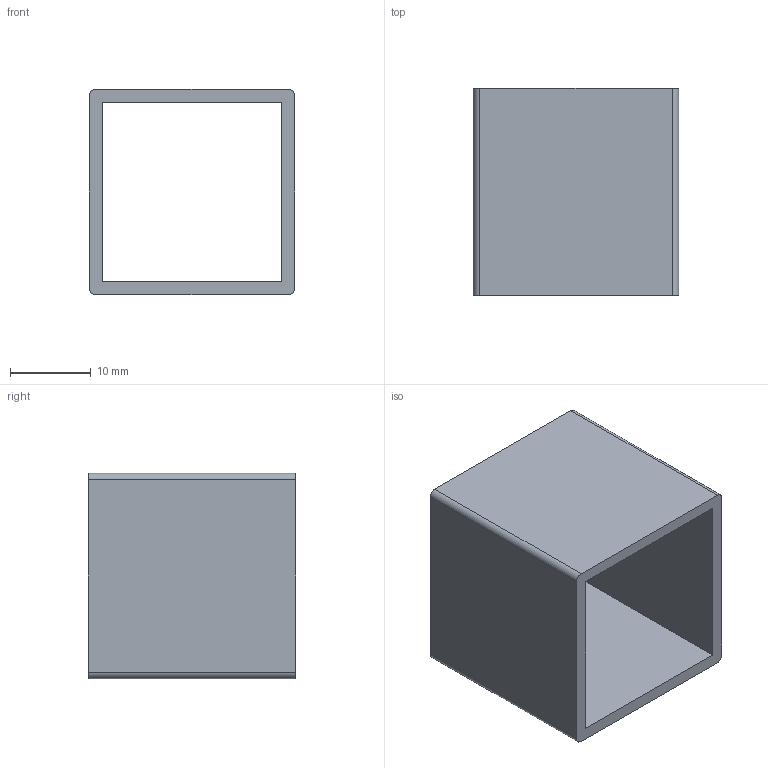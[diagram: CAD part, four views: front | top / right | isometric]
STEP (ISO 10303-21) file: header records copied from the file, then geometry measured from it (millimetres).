
FILE_DESCRIPTION(/* description */ (''),/* implementation_level */ '2;1');
FILE_NAME(/* name */ '6061-REC-100-100-062-IMPERIAL.step',/* time_stamp */ '2025-08-14T13:01:57-07:00',/* author */ (''),/* organization */ (''),/* preprocessor_version */ 'ST-DEVELOPER v20.1',/* originating_system */ 'Autodesk Translation Framework v14.10.0.0',/* authorisation */ '');
FILE_SCHEMA (('AUTOMOTIVE_DESIGN { 1 0 10303 214 3 1 1 }'));
Length unit declared in the file: inch
Products named in the file (1): (Unsaved)
Bounding box: 25.4 x 25.65 x 25.4 mm (x, y, z)
Volume: 3836.5 mm3; surface area: 5154.1 mm2
Topology: 1 solids, 1 shells, 14 faces, 36 edges, 24 vertices
Faces by surface type: plane 10, cylinder 4
Entity records: 467 total; most frequent: CARTESIAN_POINT 75, DIRECTION 74, ORIENTED_EDGE 72, EDGE_CURVE 36, LINE 28, VECTOR 28, VERTEX_POINT 24, AXIS2_PLACEMENT_3D 23
